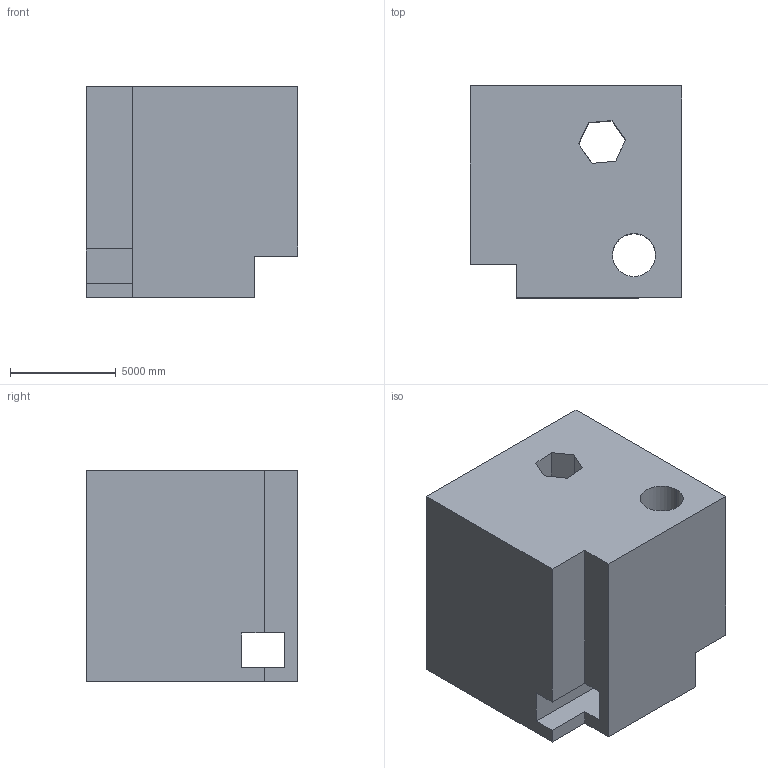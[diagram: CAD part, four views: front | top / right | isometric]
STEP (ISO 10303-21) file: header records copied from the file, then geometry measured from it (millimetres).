
FILE_DESCRIPTION (( 'STEP AP203' ), '1' );
FILE_NAME ('1829.STEP', '2022-08-26T10:42:39', ( 'user' ), ( '' ), 'SwSTEP 2.0', 'SolidWorks 2021', '' );
FILE_SCHEMA (( 'CONFIG_CONTROL_DESIGN' ));
Length unit declared in the file: centimetre
Products named in the file (1): 1829
Bounding box: 10000 x 10000 x 10000 mm (x, y, z)
Volume: 772097555357.9 mm3; surface area: 861201056.3 mm2
Topology: 1 solids, 1 shells, 62 faces, 186 edges, 124 vertices
Faces by surface type: plane 51, cylinder 11
Entity records: 2167 total; most frequent: CARTESIAN_POINT 445, ORIENTED_EDGE 372, DIRECTION 308, EDGE_CURVE 186, LINE 142, VECTOR 142, VERTEX_POINT 124, AXIS2_PLACEMENT_3D 83
